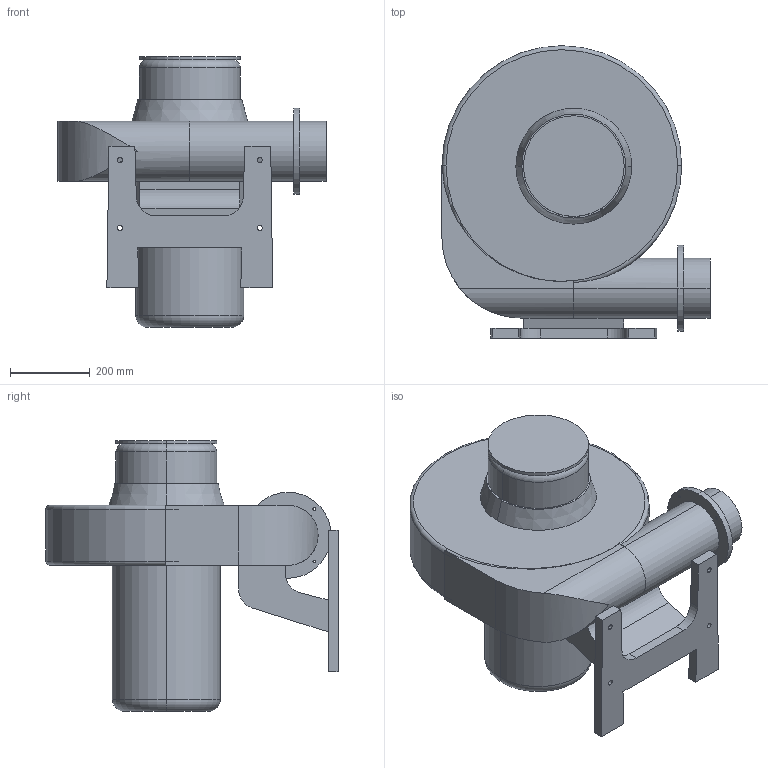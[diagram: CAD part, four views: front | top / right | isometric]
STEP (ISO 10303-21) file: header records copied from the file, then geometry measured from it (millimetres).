
FILE_DESCRIPTION (( 'STEP AP203' ), '1' );
FILE_NAME ('TB-7500.STEP', '2019-05-09T03:38:27', ( 'User' ), ( 'www.dadighost.com' ), 'SwSTEP 2.0', 'SolidWorks 2014', '' );
FILE_SCHEMA (( 'CONFIG_CONTROL_DESIGN' ));
Length unit declared in the file: millimetre
Products named in the file (1): TB-7500
Bounding box: 671 x 731.5 x 678 mm (x, y, z)
Volume: 85215486 mm3; surface area: 2152248.5 mm2
Topology: 2 solids, 2 shells, 86 faces, 218 edges, 141 vertices
Faces by surface type: cylinder 40, plane 36, torus 8, cone 2
Entity records: 3011 total; most frequent: CARTESIAN_POINT 745, DIRECTION 485, ORIENTED_EDGE 436, EDGE_CURVE 218, AXIS2_PLACEMENT_3D 190, VERTEX_POINT 141, EDGE_LOOP 109, LINE 105
